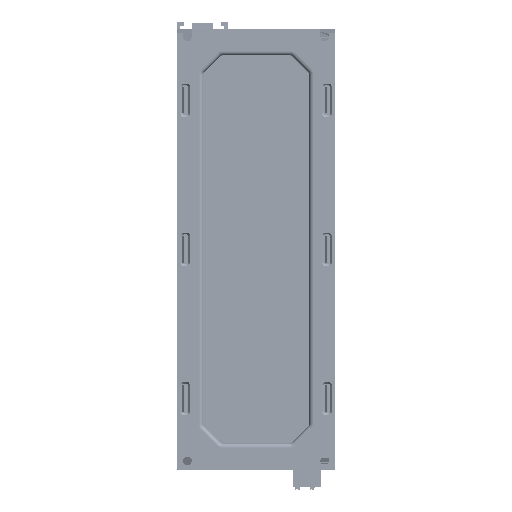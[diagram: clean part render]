
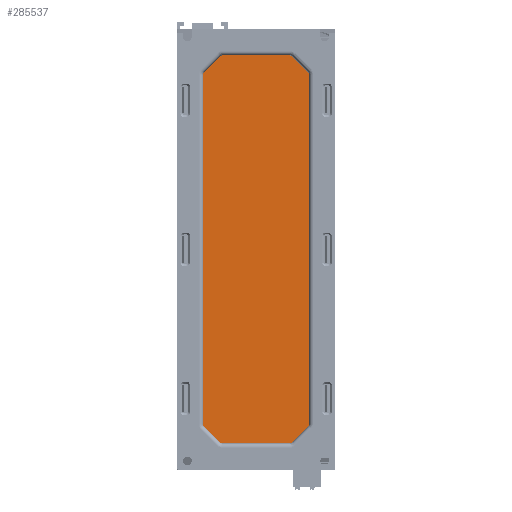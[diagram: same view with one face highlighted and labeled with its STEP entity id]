
A CAD part, front view. The second image highlights one B-rep face of the part: STEP entity #285537.
In plain terms, the highlighted planar face has unit normal (0, -1, 0).
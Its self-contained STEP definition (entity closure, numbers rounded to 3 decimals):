
#111622=CARTESIAN_POINT('',(19.172,2.5,-108.));
#111623=DIRECTION('',(0.,1.,0.));
#111624=DIRECTION('',(0.707,0.,-0.707));
#111625=AXIS2_PLACEMENT_3D('',#111622,#111623,#111624);
#111627=CARTESIAN_POINT('',(-19.172,2.5,-108.));
#111628=DIRECTION('',(0.,1.,0.));
#111629=DIRECTION('',(0.,0.,-1.));
#111630=AXIS2_PLACEMENT_3D('',#111627,#111628,#111629);
#111632=DIRECTION('',(-0.707,0.,0.707));
#111633=VECTOR('',#111632,12.485);
#111634=CARTESIAN_POINT('',(-20.586,2.5,-109.414));
#111635=LINE('',#111634,#111633);
#111636=CARTESIAN_POINT('',(-28.,2.5,-99.172));
#111637=DIRECTION('',(0.,1.,0.));
#111638=DIRECTION('',(-0.707,0.,-0.707));
#111639=AXIS2_PLACEMENT_3D('',#111636,#111637,#111638);
#111641=CARTESIAN_POINT('',(-28.,2.5,99.172));
#111642=DIRECTION('',(0.,1.,0.));
#111643=DIRECTION('',(-1.,0.,0.));
#111644=AXIS2_PLACEMENT_3D('',#111641,#111642,#111643);
#111646=DIRECTION('',(0.707,0.,0.707));
#111647=VECTOR('',#111646,12.485);
#111648=CARTESIAN_POINT('',(-29.414,2.5,100.586));
#111649=LINE('',#111648,#111647);
#111650=CARTESIAN_POINT('',(-19.172,2.5,108.));
#111651=DIRECTION('',(0.,1.,0.));
#111652=DIRECTION('',(-0.707,0.,0.707));
#111653=AXIS2_PLACEMENT_3D('',#111650,#111651,#111652);
#111655=CARTESIAN_POINT('',(19.172,2.5,108.));
#111656=DIRECTION('',(0.,1.,0.));
#111657=DIRECTION('',(0.,0.,1.));
#111658=AXIS2_PLACEMENT_3D('',#111655,#111656,#111657);
#111660=DIRECTION('',(0.707,0.,-0.707));
#111661=VECTOR('',#111660,12.485);
#111662=CARTESIAN_POINT('',(20.586,2.5,109.414));
#111663=LINE('',#111662,#111661);
#111664=CARTESIAN_POINT('',(28.,2.5,99.172));
#111665=DIRECTION('',(0.,1.,0.));
#111666=DIRECTION('',(0.707,0.,0.707));
#111667=AXIS2_PLACEMENT_3D('',#111664,#111665,#111666);
#111669=CARTESIAN_POINT('',(28.,2.5,-99.172));
#111670=DIRECTION('',(0.,1.,0.));
#111671=DIRECTION('',(1.,0.,0.));
#111672=AXIS2_PLACEMENT_3D('',#111669,#111670,#111671);
#111674=DIRECTION('',(-0.707,0.,-0.707));
#111675=VECTOR('',#111674,12.485);
#111676=CARTESIAN_POINT('',(29.414,2.5,-100.586));
#111677=LINE('',#111676,#111675);
#111678=DIRECTION('',(1.,0.,0.));
#111679=VECTOR('',#111678,38.343);
#111680=CARTESIAN_POINT('',(-19.172,2.5,-110.));
#111681=LINE('',#111680,#111679);
#111706=DIRECTION('',(0.,0.,-1.));
#111707=VECTOR('',#111706,198.343);
#111708=CARTESIAN_POINT('',(-30.,2.5,99.172));
#111709=LINE('',#111708,#111707);
#111734=DIRECTION('',(-1.,0.,0.));
#111735=VECTOR('',#111734,38.343);
#111736=CARTESIAN_POINT('',(19.172,2.5,110.));
#111737=LINE('',#111736,#111735);
#111762=DIRECTION('',(0.,0.,1.));
#111763=VECTOR('',#111762,198.343);
#111764=CARTESIAN_POINT('',(30.,2.5,-99.172));
#111765=LINE('',#111764,#111763);
#148870=CARTESIAN_POINT('',(20.586,2.5,-109.414));
#148871=CARTESIAN_POINT('',(19.172,2.5,-110.));
#148872=VERTEX_POINT('',#148870);
#148873=VERTEX_POINT('',#148871);
#148874=CARTESIAN_POINT('',(-19.172,2.5,-110.));
#148875=VERTEX_POINT('',#148874);
#148876=CARTESIAN_POINT('',(-20.586,2.5,-109.414));
#148877=VERTEX_POINT('',#148876);
#148878=CARTESIAN_POINT('',(-29.414,2.5,-100.586));
#148879=VERTEX_POINT('',#148878);
#148880=CARTESIAN_POINT('',(-30.,2.5,-99.172));
#148881=VERTEX_POINT('',#148880);
#148882=CARTESIAN_POINT('',(-30.,2.5,99.172));
#148883=VERTEX_POINT('',#148882);
#148884=CARTESIAN_POINT('',(-29.414,2.5,100.586));
#148885=VERTEX_POINT('',#148884);
#148886=CARTESIAN_POINT('',(-20.586,2.5,109.414));
#148887=VERTEX_POINT('',#148886);
#148888=CARTESIAN_POINT('',(-19.172,2.5,110.));
#148889=VERTEX_POINT('',#148888);
#148890=CARTESIAN_POINT('',(19.172,2.5,110.));
#148891=VERTEX_POINT('',#148890);
#148892=CARTESIAN_POINT('',(20.586,2.5,109.414));
#148893=VERTEX_POINT('',#148892);
#148894=CARTESIAN_POINT('',(29.414,2.5,100.586));
#148895=VERTEX_POINT('',#148894);
#148896=CARTESIAN_POINT('',(30.,2.5,99.172));
#148897=VERTEX_POINT('',#148896);
#148898=CARTESIAN_POINT('',(30.,2.5,-99.172));
#148899=VERTEX_POINT('',#148898);
#148900=CARTESIAN_POINT('',(29.414,2.5,-100.586));
#148901=VERTEX_POINT('',#148900);
#285499=CARTESIAN_POINT('',(0.,2.5,0.));
#285500=DIRECTION('',(0.,-1.,0.));
#285501=DIRECTION('',(0.,0.,-1.));
#285502=AXIS2_PLACEMENT_3D('',#285499,#285500,#285501);
#285503=PLANE('',#285502);
#285504=ORIENTED_EDGE('',*,*,#285489,.T.);
#285506=ORIENTED_EDGE('',*,*,#285505,.F.);
#285508=ORIENTED_EDGE('',*,*,#285507,.T.);
#285510=ORIENTED_EDGE('',*,*,#285509,.T.);
#285512=ORIENTED_EDGE('',*,*,#285511,.T.);
#285514=ORIENTED_EDGE('',*,*,#285513,.F.);
#285516=ORIENTED_EDGE('',*,*,#285515,.T.);
#285518=ORIENTED_EDGE('',*,*,#285517,.T.);
#285520=ORIENTED_EDGE('',*,*,#285519,.T.);
#285522=ORIENTED_EDGE('',*,*,#285521,.F.);
#285524=ORIENTED_EDGE('',*,*,#285523,.T.);
#285526=ORIENTED_EDGE('',*,*,#285525,.T.);
#285528=ORIENTED_EDGE('',*,*,#285527,.T.);
#285530=ORIENTED_EDGE('',*,*,#285529,.F.);
#285532=ORIENTED_EDGE('',*,*,#285531,.T.);
#285534=ORIENTED_EDGE('',*,*,#285533,.T.);
#285535=EDGE_LOOP('',(#285504,#285506,#285508,#285510,#285512,#285514,#285516,
#285518,#285520,#285522,#285524,#285526,#285528,#285530,#285532,#285534));
#285536=FACE_OUTER_BOUND('',#285535,.F.);
#285537=ADVANCED_FACE('',(#285536),#285503,.T.);
#111626=CIRCLE('',#111625,2.);
#111631=CIRCLE('',#111630,2.);
#111640=CIRCLE('',#111639,2.);
#111645=CIRCLE('',#111644,2.);
#111654=CIRCLE('',#111653,2.);
#111659=CIRCLE('',#111658,2.);
#111668=CIRCLE('',#111667,2.);
#111673=CIRCLE('',#111672,2.);
#285489=EDGE_CURVE('',#148872,#148873,#111626,.T.);
#285505=EDGE_CURVE('',#148875,#148873,#111681,.T.);
#285507=EDGE_CURVE('',#148875,#148877,#111631,.T.);
#285509=EDGE_CURVE('',#148877,#148879,#111635,.T.);
#285511=EDGE_CURVE('',#148879,#148881,#111640,.T.);
#285513=EDGE_CURVE('',#148883,#148881,#111709,.T.);
#285515=EDGE_CURVE('',#148883,#148885,#111645,.T.);
#285517=EDGE_CURVE('',#148885,#148887,#111649,.T.);
#285519=EDGE_CURVE('',#148887,#148889,#111654,.T.);
#285521=EDGE_CURVE('',#148891,#148889,#111737,.T.);
#285523=EDGE_CURVE('',#148891,#148893,#111659,.T.);
#285525=EDGE_CURVE('',#148893,#148895,#111663,.T.);
#285527=EDGE_CURVE('',#148895,#148897,#111668,.T.);
#285529=EDGE_CURVE('',#148899,#148897,#111765,.T.);
#285531=EDGE_CURVE('',#148899,#148901,#111673,.T.);
#285533=EDGE_CURVE('',#148901,#148872,#111677,.T.);
